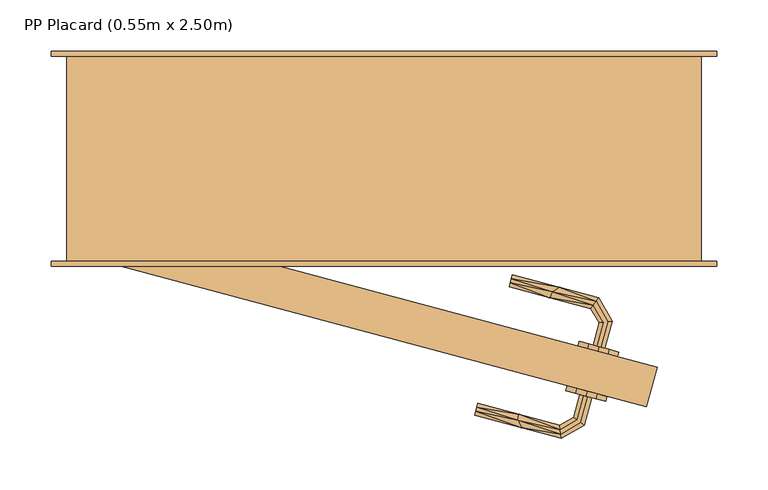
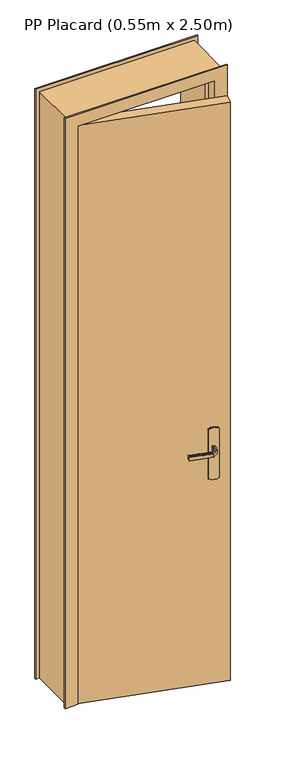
"""IFC4 building model written with IfcOpenShell, lengths in millimetres: door geometry, PP Placard (0.55m x 2.50m)."""

from ifc_helpers import new_model, si_unit, frame, origin, origin_with_axes, place, context, project, spatial, polyline, outline, extrude, faceted_brep, source, transform, mapped, element, save


def pp_placard_0_55m_x_2_50m_41b90cb9(model_context):
    return source(origin(), model_context, "Body", "SolidModel", [
        faceted_brep([(575.0532714, -131.1267754, 1007.7804408), (578.9658479, -132.1751471, 1007.7804408), (582.8051146, -133.2038755, 1007.0), (582.8051146, -133.2038755, 993.0), (578.9658479, -132.1751471, 992.2195592), (575.0532714, -131.1267754, 992.2195592), (571.2140047, -130.098047, 993.0), (571.2140047, -130.098047, 1007.0), (572.2353685, -157.2936382, 1007.7804408), (575.648522, -159.9126429, 1007.0), (568.7570418, -154.6246242, 1007.7804408), (552.0073098, -164.2950864, 1007.7804408), (552.5795804, -168.6419128, 1007.7804408), (565.3438883, -152.0056194, 1007.0), (565.3438883, -152.0056194, 993.0), (568.7570418, -154.6246242, 992.2195592), (572.2353685, -157.2936382, 992.2195592), (552.5795804, -168.6419128, 992.2195592), (552.0073098, -164.2950864, 992.2195592), (575.648522, -159.9126429, 993.0), (553.1411283, -172.9072927, 1007.0), (551.4457619, -160.0297065, 1007.0), (551.4457619, -160.0297065, 993.0), (553.1411283, -172.9072927, 993.0), (468.486007, -150.2240213, 1007.0), (469.5147354, -146.3847546, 1007.7804408), (470.5631071, -142.4721781, 1007.7804408), (471.5918355, -138.6329114, 1007.0), (471.5918355, -138.6329114, 993.0), (470.5631071, -142.4721781, 992.2195592), (469.5147354, -146.3847546, 992.2195592), (468.486007, -150.2240213, 993.0), (510.7610226, -155.3399205, 1007.8786868), (514.5712394, -162.5725221, 1007.0), (511.5187987, -149.3313089, 1007.0), (511.5187987, -149.3313089, 993.0), (510.7610227, -155.3399206, 992.1213132), (514.5712468, -162.5725241, 993.0)], [[[0, 1, 2, 3, 4, 5, 6, 7]], [[2, 1, 8, 9]], [[1, 0, 10, 11, 12, 8]], [[0, 7, 13, 10]], [[14, 13, 7, 6]], [[5, 15, 14, 6]], [[5, 4, 16, 17, 18, 15]], [[3, 19, 16, 4]], [[9, 19, 3, 2]], [[9, 8, 12, 20]], [[10, 13, 21, 11]], [[22, 21, 13, 14]], [[14, 15, 18, 22]], [[16, 19, 23, 17]], [[20, 23, 19, 9]], [[24, 25, 26, 27, 28, 29, 30, 31]], [[32, 25, 33]], [[33, 25, 24]], [[33, 20, 12]], [[11, 34, 32]], [[34, 11, 21]], [[27, 26, 34]], [[32, 26, 25]], [[32, 34, 26]], [[32, 33, 12]], [[11, 32, 12]], [[21, 22, 35, 28, 27, 34]], [[36, 29, 35]], [[30, 36, 37]], [[18, 35, 22]], [[29, 28, 35]], [[30, 37, 31]], [[37, 17, 23]], [[36, 17, 37]], [[36, 18, 17]], [[36, 35, 18]], [[29, 36, 30]], [[23, 20, 33, 24, 31, 37]]]),
        faceted_brep([(690.0, 200.0, 0.0), (690.0, 0.0, 0.0), (705.0, 0.0, 0.0), (705.0, -5.0, 0.0), (655.0, -5.0, 0.0), (655.0, 40.0, 0.0), (640.0, 40.0, 0.0), (640.0, 205.0, 0.0), (705.0, 205.0, 0.0), (705.0, 200.0, 0.0), (690.0, 200.0, 2485.0), (690.0, 0.0, 2485.0), (705.0, 200.0, 2500.0), (55.0, 200.0, 2500.0), (55.0, 200.0, 0.0), (70.0, 200.0, 0.0), (70.0, 200.0, 2485.0), (640.0, 40.0, 2435.0), (640.0, 205.0, 2435.0), (655.0, 40.0, 2450.0), (105.0, 40.0, 2450.0), (105.0, 40.0, 0.0), (120.0, 40.0, 0.0), (120.0, 40.0, 2435.0), (70.0, 0.0, 0.0), (70.0, 0.0, 2485.0), (55.0, 205.0, 0.0), (120.0, 205.0, 0.0), (105.0, -5.0, 0.0), (55.0, -5.0, 0.0), (55.0, 0.0, 0.0), (120.0, 205.0, 2435.0), (655.0, -5.0, 2450.0), (705.0, -5.0, 2500.0), (55.0, -5.0, 2500.0), (105.0, -5.0, 2450.0), (705.0, 0.0, 2500.0), (55.0, 0.0, 2500.0), (705.0, 205.0, 2500.0), (55.0, 205.0, 2500.0)], [[[0, 1, 2, 3, 4, 5, 6, 7, 8, 9]], [[0, 10, 11, 1]], [[9, 12, 13, 14, 15, 16, 10, 0]], [[7, 6, 17, 18]], [[5, 19, 20, 21, 22, 23, 17, 6]], [[16, 15, 24, 25]], [[15, 14, 26, 27, 22, 21, 28, 29, 30, 24]], [[23, 22, 27, 31]], [[10, 16, 25, 11]], [[17, 23, 31, 18]], [[5, 4, 32, 19]], [[3, 33, 34, 29, 28, 35, 32, 4]], [[2, 36, 33, 3]], [[1, 11, 25, 24, 30, 37, 36, 2]], [[8, 38, 12, 9]], [[7, 18, 31, 27, 26, 39, 38, 8]], [[35, 28, 21, 20]], [[37, 30, 29, 34]], [[39, 26, 14, 13]], [[32, 35, 20, 19]], [[36, 37, 34, 33]], [[38, 39, 13, 12]]]),
        extrude(outline(polyline([(0.0, 0.0), (206.2910989, 39.2935427), (212.0216555, 30.5643917), (215.2976776, 20.6495021), (215.8959097, 10.2245573), (213.7755833, 0.0), (7.4844843, -39.2935426), (1.7539277, -30.5643917), (-1.5220943, -20.6495021), (-2.1203264, -10.2245573), (0.0, 0.0)])), frame((607.9749332, -93.36068, 870.0), z_axis=(0.2588190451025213, 0.9659258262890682, 0.0), x_axis=(-0.18073641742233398, 0.04842817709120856, 0.9823385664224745)), (0.0, 0.0, 1.0), 5.0),
        faceted_brep([(587.9942236, -82.8304841, 992.2195592), (591.9068002, -83.8788558, 992.2195592), (595.7460669, -84.9075842, 993.0), (595.7460669, -84.9075842, 1007.0), (591.9068002, -83.8788558, 1007.7804408), (587.9942236, -82.8304841, 1007.7804408), (584.154957, -81.8017556, 1007.0), (584.154957, -81.8017556, 993.0), (589.9745561, -60.0827159, 1007.0), (589.9745561, -60.0827159, 993.0), (594.239936, -59.521168, 1007.7804408), (598.5867624, -58.9488974, 1007.7804408), (587.1412545, -39.1246963, 1007.7804408), (584.4722405, -42.603023, 1007.7804408), (602.8521423, -58.3873495, 1007.0), (602.8521423, -58.3873495, 993.0), (598.5867624, -58.9488974, 992.2195592), (594.239936, -59.521168, 992.2195592), (584.4722405, -42.603023, 992.2195592), (587.1412545, -39.1246963, 992.2195592), (581.8532358, -46.0161764, 1007.0), (581.8532358, -46.0161764, 993.0), (589.7602592, -35.7115428, 1007.0), (589.7602592, -35.7115428, 993.0), (503.1346428, -20.8086794, 1007.7804408), (504.1830145, -16.8961028, 1007.7804408), (505.2117429, -13.0568362, 1007.0), (505.2117429, -13.0568362, 993.0), (504.1830145, -16.8961028, 992.2195592), (503.1346428, -20.8086794, 992.2195592), (502.1059144, -24.6479461, 993.0), (502.1059144, -24.6479461, 1007.0), (541.9795751, -35.3320613, 1007.0), (541.9795866, -35.3320643, 993.0), (544.3276275, -29.7495629, 1007.8786868), (551.1903704, -25.3767723, 1007.0), (551.1903718, -25.3767727, 993.0), (544.3276273, -29.7495629, 992.1213132)], [[[0, 1, 2, 3, 4, 5, 6, 7]], [[8, 9, 7, 6]], [[5, 10, 8, 6]], [[5, 4, 11, 12, 13, 10]], [[3, 14, 11, 4]], [[14, 3, 2, 15]], [[2, 1, 16, 15]], [[1, 0, 17, 18, 19, 16]], [[0, 7, 9, 17]], [[20, 21, 9, 8]], [[8, 10, 13, 20]], [[14, 22, 12, 11]], [[23, 22, 14, 15]], [[15, 16, 19, 23]], [[17, 9, 21, 18]], [[24, 25, 26, 27, 28, 29, 30, 31]], [[21, 20, 32, 31, 30, 33]], [[34, 24, 32]], [[25, 34, 35]], [[13, 32, 20]], [[24, 31, 32]], [[25, 35, 26]], [[35, 12, 22]], [[34, 12, 35]], [[34, 13, 12]], [[34, 32, 13]], [[24, 34, 25]], [[22, 23, 36, 27, 26, 35]], [[37, 28, 36]], [[36, 28, 27]], [[36, 23, 19]], [[18, 33, 37]], [[33, 18, 21]], [[30, 29, 33]], [[37, 29, 28]], [[37, 33, 29]], [[37, 36, 19]], [[18, 37, 19]]]),
        extrude(outline(polyline([(0.0, 0.0), (206.2910989, 39.2935427), (212.0216555, 30.5643917), (215.2976776, 20.6495021), (215.8959097, 10.2245573), (213.7755833, 0.0), (7.4844843, -39.2935427), (1.7539277, -30.5643916), (-1.5220943, -20.6495021), (-2.1203264, -10.2245572), (0.0, 0.0)])), frame((596.3280762, -136.8273421, 870.0), z_axis=(0.25881904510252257, 0.9659258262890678, 0.0), x_axis=(-0.18073641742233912, 0.048428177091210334, 0.9823385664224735)), (0.0, 0.0, 1.0), 5.0),
        extrude(outline(polyline([(646.6119663, -103.7134418), (636.2592045, -142.3504748), (105.0, 0.0), (115.3527618, 38.6370331), (646.6119663, -103.7134418)])), origin_with_axes(), (0.0, 0.0, 1.0), 2450.0),
    ])


if __name__ == "__main__":
    model = new_model("IFC4")
    model_context = context("Model", 3, world=origin())
    ifc_project = project(units=[si_unit("LENGTHUNIT", "METRE", prefix="MILLI")], contexts=[model_context])
    site = spatial("IfcSite", under=ifc_project)
    building = spatial("IfcBuilding", under=site)
    placement = place(None, origin())
    pp_placard_0_55m_x_2_50m_shape = pp_placard_0_55m_x_2_50m_41b90cb9(model_context)
    element("IfcDoor", 1, ObjectType="PP Placard (0.55m x 2.50m)", at=placement, inside=building, context=model_context, shape_type="MappedRepresentation", body=[
        mapped(pp_placard_0_55m_x_2_50m_shape, transform((0.0, 0.0, 0.0), x_axis=(1.0, 0.0, 0.0), y_axis=(0.0, 1.0, 0.0), z_axis=(0.0, 0.0, 1.0))),
    ])
    save(model, "model.ifc")
